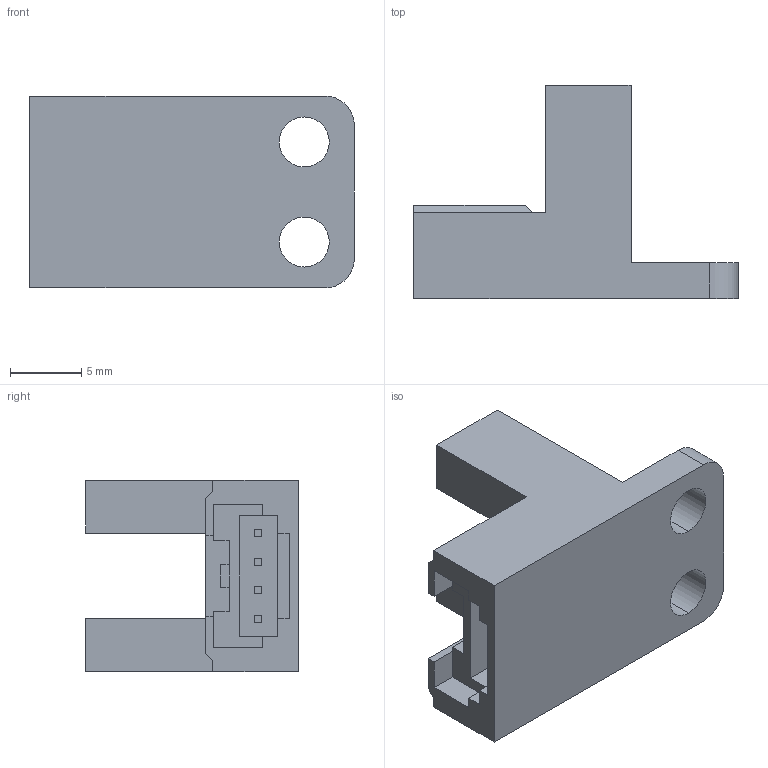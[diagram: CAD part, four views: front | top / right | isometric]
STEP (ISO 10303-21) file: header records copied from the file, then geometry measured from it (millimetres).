
FILE_DESCRIPTION (( 'STEP AP203' ), '1' );
FILE_NAME ('pm-y65.STEP', '2015-08-07T08:20:41', ( '' ), ( '' ), 'SwSTEP 2.0', 'SolidWorks 2010', '' );
FILE_SCHEMA (( 'CONFIG_CONTROL_DESIGN' ));
Length unit declared in the file: millimetre
Products named in the file (1): pm-y65
Bounding box: 22.7 x 14.9 x 13.4 mm (x, y, z)
Volume: 1660 mm3; surface area: 1531 mm2
Topology: 1 solids, 1 shells, 107 faces, 284 edges, 188 vertices
Faces by surface type: plane 101, cylinder 6
Entity records: 3343 total; most frequent: CARTESIAN_POINT 580, ORIENTED_EDGE 568, DIRECTION 512, EDGE_CURVE 284, LINE 272, VECTOR 272, VERTEX_POINT 188, EDGE_LOOP 120
